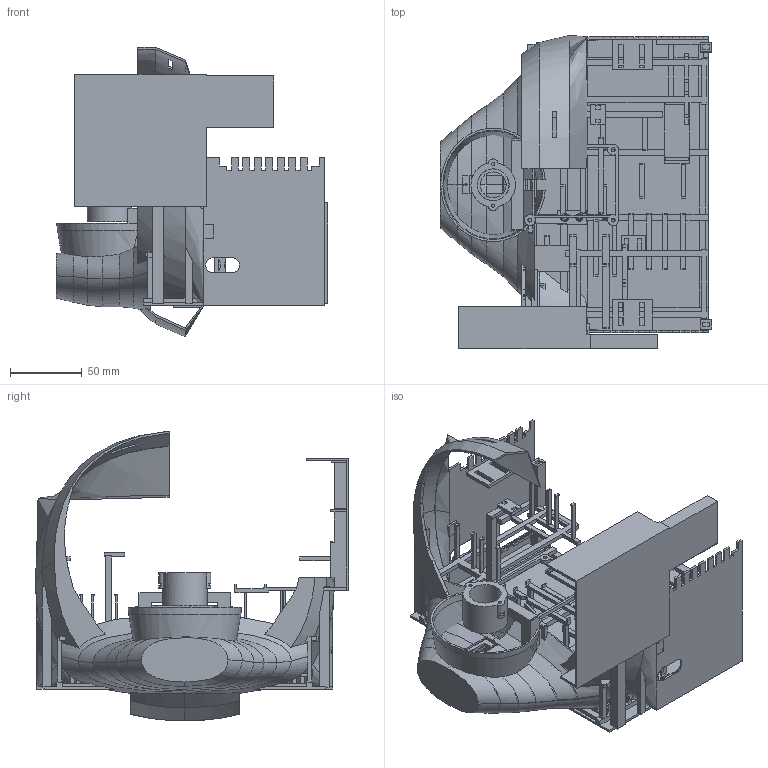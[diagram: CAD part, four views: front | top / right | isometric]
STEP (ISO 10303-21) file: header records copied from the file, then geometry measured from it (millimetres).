
FILE_DESCRIPTION(('Open CASCADE Model'),'2;1');
FILE_NAME('Open CASCADE Shape Model','2026-11-19T21:17:02',('Author'),( 'Open CASCADE'),'Open CASCADE STEP processor 8.0','Open CASCADE 8.0' ,'Unknown');
FILE_SCHEMA(('AUTOMOTIVE_DESIGN { 1 0 10303 214 1 1 1 1 }'));
Length unit declared in the file: millimetre
Products named in the file (3): Open CASCADE STEP translator 8.0 1; Open CASCADE STEP translator 8.0 1.1; Open CASCADE STEP translator 8.0 1.2
Assembly tree (2 placements, depth 2):
  Open CASCADE STEP translator 8.0 1
    Open CASCADE STEP translator 8.0 1.1
    Open CASCADE STEP translator 8.0 1.2
Bounding box: 188.9 x 218 x 201.64 mm (x, y, z)
Volume: 260864.2 mm3; surface area: 300244.6 mm2
Topology: 1 solids, 3 shells, 2082 faces, 6212 edges, 4116 vertices
Faces by surface type: plane 1837, bspline 165, cylinder 51, cone 29
Full cylindrical faces by diameter (mm): 1.8 x2, 2.2 x6, 2.3 x2, 2.76 x4, 2.8 x5, 18 x1, 22.12 x1, 22.2 x1, 31 x1
Entity records: 168157 total; most frequent: CARTESIAN_POINT 57070, DIRECTION 16020, ORIENTED_EDGE 12494, PCURVE 12424, DEFINITIONAL_REPRESENTATION 12424, LINE 11456, VECTOR 11456, B_SPLINE_CURVE_WITH_KNOTS 6670
